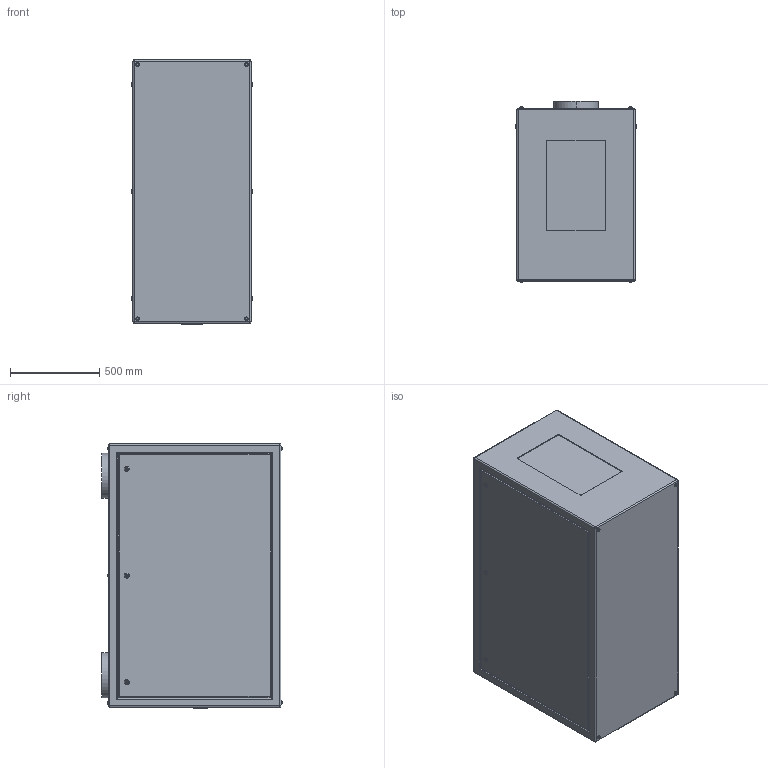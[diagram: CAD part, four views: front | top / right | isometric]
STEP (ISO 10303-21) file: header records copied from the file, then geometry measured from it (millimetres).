
FILE_DESCRIPTION (( 'STEP AP214' ), '1' );
FILE_NAME ('Tacit 56.514.P R08.STEP', '2022-09-11T22:41:04', ( '' ), ( '' ), 'SwSTEP 2.0', 'SolidWorks 2020', '' );
FILE_SCHEMA (( 'AUTOMOTIVE_DESIGN' ));
Length unit declared in the file: inch
Products named in the file (1): Tacit 56.514.P R08
Bounding box: 673.1 x 1010.56 x 1478.28 mm (x, y, z)
Volume: 937270704.5 mm3; surface area: 6477476.9 mm2
Topology: 1 solids, 7 shells, 401 faces, 892 edges, 560 vertices
Faces by surface type: plane 177, cylinder 168, torus 48, sphere 8
Entity records: 15011 total; most frequent: CARTESIAN_POINT 2382, DIRECTION 1972, ORIENTED_EDGE 1768, EDGE_CURVE 884, AXIS2_PLACEMENT_3D 782, VERTEX_POINT 560, EDGE_LOOP 464, LINE 408
